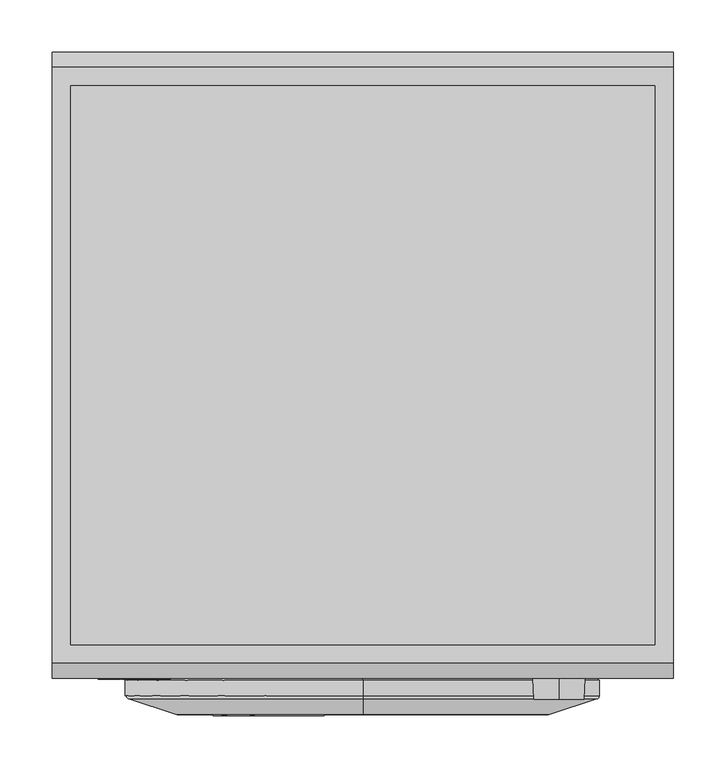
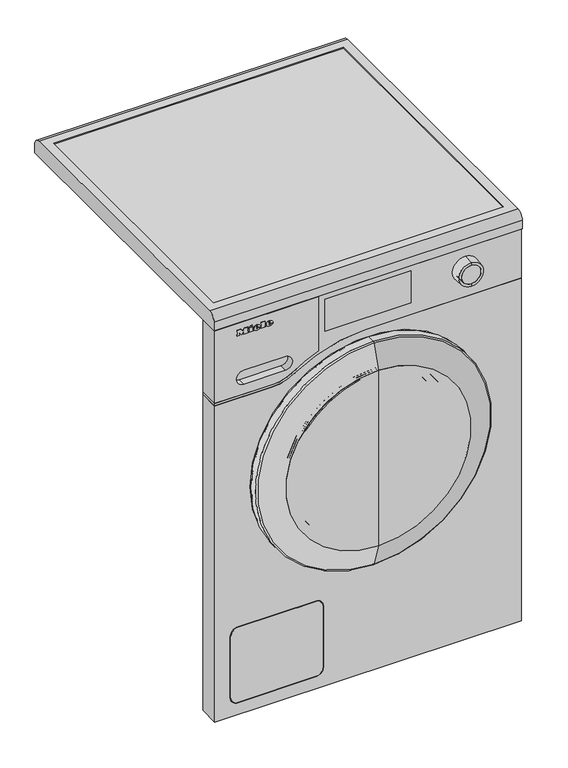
"""IFC4 building model written with IfcOpenShell, lengths in millimetres: proxy geometry, 12721040_GB_WEE385WCS_LW : 11EE3851_GB_12721040_WEE385WCS_LW."""

from ifc_helpers import new_model, si_unit, point, frame, frame_2d, origin, place, context, project, spatial, polyline, circle_curve, ellipse_curve, trimmed, segment, composite_curve, outline, extrude, source, transform, mapped, element, save
from ifc_brep_helpers import plane_surface, cylinder_surface, revolved_surface, extruded_surface, advanced_brep


def specialty_equipment_32876fde(model_context):
    return source(origin(), model_context, "Body", "SolidModel", [
        advanced_brep(
        [(-192.212, -601.0, 794.7018), (-192.212, -601.0, 795.8532), (-184.5854, -601.0, 795.8532), (-197.855, -601.0, 795.8532), (-194.72, -601.0, 792.0), (-184.7792, -601.0, 794.7018), (-188.222, -601.0, 794.7018), (-190.9352, -601.0, 793.425), (-192.212, -601.0, 797.3124), (-192.212, -601.0, 798.555), (-190.2626, -601.0, 798.555), (-190.2626, -601.0, 797.3124), (-192.212, -600.0, 794.7018), (-190.9352, -600.0, 793.425), (-188.222, -600.0, 794.7018), (-184.7792, -600.0, 794.7018), (-194.72, -600.0, 792.0), (-197.855, -600.0, 795.8532), (-184.5854, -600.0, 795.8532), (-192.212, -600.0, 795.8532), (-192.212, -600.0, 797.3124), (-190.2626, -600.0, 797.3124), (-190.2626, -600.0, 798.555), (-192.212, -600.0, 798.555)],
        [
            (0, 1),
            (1, 2),
            (2, 3, ellipse_curve(frame((-191.2202, -601.0, 795.8532), z_axis=(0.0, -1.0, 0.0), x_axis=(-1.0, 0.0, 0.0)), 6.6348, 5.4834)),
            (3, 4, circle_curve(frame((-193.4431378, -601.0, 796.2408), z_axis=(0.0, -1.0, 0.0), x_axis=(0.0, 0.0, -1.0)), 4.4288556)),
            (4, 5, circle_curve(frame((-191.3530192, -601.0, 799.2504), z_axis=(0.0, -1.0, 0.0), x_axis=(0.0, 0.0, -1.0)), 7.9940516)),
            (5, 6),
            (6, 7, circle_curve(frame((-190.3779412, -601.0, 795.762), z_axis=(0.0, 1.0, 0.0), x_axis=(0.0, 0.0, -1.0)), 2.4025208)),
            (7, 0, circle_curve(frame((-190.9352, -601.0, 794.7018), z_axis=(0.0, 1.0, 0.0), x_axis=(0.0, 0.0, -1.0)), 1.2768)),
            (8, 9),
            (9, 10, circle_curve(frame((-191.2373, -601.0, 798.555), z_axis=(0.0, 1.0, 0.0), x_axis=(0.0, 0.0, -1.0)), 0.9747)),
            (10, 11),
            (11, 8),
            (12, 13, circle_curve(frame((-190.9352, -600.0, 794.7018), z_axis=(0.0, -1.0, 0.0), x_axis=(0.0, 0.0, -1.0)), 1.2768)),
            (13, 14, circle_curve(frame((-190.3779412, -600.0, 795.762), z_axis=(0.0, -1.0, 0.0), x_axis=(0.0, 0.0, -1.0)), 2.4025208)),
            (14, 15),
            (15, 16, circle_curve(frame((-191.3530192, -600.0, 799.2504), z_axis=(0.0, 1.0, 0.0), x_axis=(0.0, 0.0, -1.0)), 7.9940516)),
            (16, 17, circle_curve(frame((-193.4431378, -600.0, 796.2408), z_axis=(0.0, 1.0, 0.0), x_axis=(0.0, 0.0, -1.0)), 4.4288556)),
            (17, 18, ellipse_curve(frame((-191.2202, -600.0, 795.8532), z_axis=(0.0, 1.0, 0.0), x_axis=(-1.0, 0.0, 0.0)), 6.6348, 5.4834)),
            (18, 19),
            (19, 12),
            (20, 21),
            (21, 22),
            (22, 23, circle_curve(frame((-191.2373, -600.0, 798.555), z_axis=(0.0, -1.0, 0.0), x_axis=(0.0, 0.0, -1.0)), 0.9747)),
            (23, 20),
            (0, 12),
            (19, 1),
            (18, 2),
            (5, 15),
            (14, 6),
            (17, 3),
            (13, 7),
            (16, 4),
            (8, 20),
            (23, 9),
            (22, 10),
            (21, 11),
        ],
        [
            plane_surface(frame((-192.212, -601.0, 795.8532), z_axis=(0.0, -1.0, 0.0), x_axis=(0.0, 0.0, 1.0))),
            plane_surface(frame((-192.212, -600.0, 795.8532), z_axis=(0.0, 1.0, 0.0), x_axis=(0.0, 0.0, -1.0))),
            plane_surface(frame((-192.212, -601.0, 794.7018), z_axis=(1.0, 0.0, 0.0), x_axis=(0.0, 1.0, 0.0))),
            plane_surface(frame((-192.212, -601.0, 795.8532), z_axis=(0.0, 0.0, -1.0), x_axis=(0.0, 1.0, 0.0))),
            plane_surface(frame((-184.7792, -601.0, 794.7018), z_axis=(0.0, 0.0, 1.0), x_axis=(0.0, 1.0, 0.0))),
            extruded_surface(trimmed(ellipse_curve(frame((-191.2202, -599.0, 795.8532), z_axis=(0.0, -1.0, 0.0), x_axis=(-1.0, 0.0, 0.0)), 6.6348, 5.4834), [point((-184.5854, -599.0, 795.8532))], [point((-197.855, -599.0, 795.8532))], True, "CARTESIAN"), (0.0, -1.0, 0.0), 1.0),
            revolved_surface(polyline([(-190.3779412, -600.0, 793.3594791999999), (-190.3779412, -601.0, 793.3594791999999)]), (-190.3779412, -600.0, 795.762), (0.0, 1.0, 0.0)),
            revolved_surface(polyline([(-190.9352, -600.0, 793.4250000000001), (-190.9352, -601.0, 793.4250000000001)]), (-190.9352, -600.0, 794.7018), (0.0, 1.0, 0.0)),
            cylinder_surface(frame((-193.4431378, -600.0, 796.2408), z_axis=(0.0, -1.0, 0.0), x_axis=(0.0, 0.0, -1.0)), 4.4288556),
            cylinder_surface(frame((-191.3530192, -600.0, 799.2504), z_axis=(0.0, -1.0, 0.0), x_axis=(0.0, 0.0, -1.0)), 7.9940516),
            plane_surface(frame((-192.212, -601.0, 797.3124), z_axis=(1.0, 0.0, 0.0), x_axis=(0.0, 1.0, 0.0))),
            revolved_surface(polyline([(-191.2373, -600.0, 797.5803), (-191.2373, -601.0, 797.5803)]), (-191.2373, -600.0, 798.555), (0.0, 1.0, 0.0)),
            plane_surface(frame((-190.2626, -601.0, 798.555), z_axis=(-1.0, 0.0, 0.0), x_axis=(0.0, 1.0, 0.0))),
            plane_surface(frame((-190.2626, -601.0, 797.3124), z_axis=(0.0, 0.0, 1.0), x_axis=(0.0, 1.0, 0.0))),
        ],
        [
            (0, [[1, 2, 3, 4, 5, 6, 7, 8], [9, 10, 11, 12]]),
            (1, [[13, 14, 15, 16, 17, 18, 19, 20], [21, 22, 23, 24]]),
            (2, [[-1, 25, -20, 26]]),
            (3, [[-2, -26, -19, 27]]),
            (4, [[-6, 28, -15, 29]]),
            (5, [[-3, -27, -18, 30]]),
            (6, [[-7, -29, -14, 31]]),
            (7, [[-8, -31, -13, -25]]),
            (8, [[-4, -30, -17, 32]]),
            (9, [[-5, -32, -16, -28]]),
            (10, [[-9, 33, -24, 34]]),
            (11, [[-10, -34, -23, 35]]),
            (12, [[-11, -35, -22, 36]]),
            (13, [[-12, -36, -21, -33]]),
        ],
    ),
        advanced_brep(
        [(-216.0038, -601.0, 794.7018), (-216.0038, -601.0, 795.8532), (-208.3772, -601.0, 795.8532), (-221.6468, -601.0, 795.8532), (-218.5118, -601.0, 792.0), (-208.571, -601.0, 794.7018), (-212.0138, -601.0, 794.7018), (-214.727, -601.0, 793.425), (-216.0038, -601.0, 797.3124), (-216.0038, -601.0, 798.555), (-214.0544, -601.0, 798.555), (-214.0544, -601.0, 797.3124), (-216.0038, -600.0, 794.7018), (-214.727, -600.0, 793.425), (-212.0138, -600.0, 794.7018), (-208.571, -600.0, 794.7018), (-218.5118, -600.0, 792.0), (-221.6468, -600.0, 795.8532), (-208.3772, -600.0, 795.8532), (-216.0038, -600.0, 795.8532), (-216.0038, -600.0, 797.3124), (-214.0544, -600.0, 797.3124), (-214.0544, -600.0, 798.555), (-216.0038, -600.0, 798.555)],
        [
            (0, 1),
            (1, 2),
            (2, 3, ellipse_curve(frame((-215.012, -601.0, 795.8532), z_axis=(0.0, -1.0, 0.0), x_axis=(-1.0, 0.0, 0.0)), 6.6348, 5.4834)),
            (3, 4, circle_curve(frame((-217.2349378, -601.0, 796.2408), z_axis=(0.0, -1.0, 0.0), x_axis=(0.0, 0.0, -1.0)), 4.4288556)),
            (4, 5, circle_curve(frame((-215.1448192, -601.0, 799.2504), z_axis=(0.0, -1.0, 0.0), x_axis=(0.0, 0.0, -1.0)), 7.9940516)),
            (5, 6),
            (6, 7, circle_curve(frame((-214.1697412, -601.0, 795.762), z_axis=(0.0, 1.0, 0.0), x_axis=(0.0, 0.0, -1.0)), 2.4025208)),
            (7, 0, circle_curve(frame((-214.727, -601.0, 794.7018), z_axis=(0.0, 1.0, 0.0), x_axis=(0.0, 0.0, -1.0)), 1.2768)),
            (8, 9),
            (9, 10, circle_curve(frame((-215.0291, -601.0, 798.555), z_axis=(0.0, 1.0, 0.0), x_axis=(0.0, 0.0, -1.0)), 0.9747)),
            (10, 11),
            (11, 8),
            (12, 13, circle_curve(frame((-214.727, -600.0, 794.7018), z_axis=(0.0, -1.0, 0.0), x_axis=(0.0, 0.0, -1.0)), 1.2768)),
            (13, 14, circle_curve(frame((-214.1697412, -600.0, 795.762), z_axis=(0.0, -1.0, 0.0), x_axis=(0.0, 0.0, -1.0)), 2.4025208)),
            (14, 15),
            (15, 16, circle_curve(frame((-215.1448192, -600.0, 799.2504), z_axis=(0.0, 1.0, 0.0), x_axis=(0.0, 0.0, -1.0)), 7.9940516)),
            (16, 17, circle_curve(frame((-217.2349378, -600.0, 796.2408), z_axis=(0.0, 1.0, 0.0), x_axis=(0.0, 0.0, -1.0)), 4.4288556)),
            (17, 18, ellipse_curve(frame((-215.012, -600.0, 795.8532), z_axis=(0.0, 1.0, 0.0), x_axis=(-1.0, 0.0, 0.0)), 6.6348, 5.4834)),
            (18, 19),
            (19, 12),
            (20, 21),
            (21, 22),
            (22, 23, circle_curve(frame((-215.0291, -600.0, 798.555), z_axis=(0.0, -1.0, 0.0), x_axis=(0.0, 0.0, -1.0)), 0.9747)),
            (23, 20),
            (0, 12),
            (19, 1),
            (18, 2),
            (5, 15),
            (14, 6),
            (17, 3),
            (13, 7),
            (16, 4),
            (8, 20),
            (23, 9),
            (22, 10),
            (21, 11),
        ],
        [
            plane_surface(frame((-216.0038, -601.0, 795.8532), z_axis=(0.0, -1.0, 0.0), x_axis=(0.0, 0.0, 1.0))),
            plane_surface(frame((-216.0038, -600.0, 795.8532), z_axis=(0.0, 1.0, 0.0), x_axis=(0.0, 0.0, -1.0))),
            plane_surface(frame((-216.0038, -601.0, 794.7018), z_axis=(1.0, 0.0, 0.0), x_axis=(0.0, 1.0, 0.0))),
            plane_surface(frame((-216.0038, -601.0, 795.8532), z_axis=(0.0, 0.0, -1.0), x_axis=(0.0, 1.0, 0.0))),
            plane_surface(frame((-208.571, -601.0, 794.7018), z_axis=(0.0, 0.0, 1.0), x_axis=(0.0, 1.0, 0.0))),
            extruded_surface(trimmed(ellipse_curve(frame((-215.012, -599.0, 795.8532), z_axis=(0.0, -1.0, 0.0), x_axis=(-1.0, 0.0, 0.0)), 6.6348, 5.4834), [point((-208.3772, -599.0, 795.8532))], [point((-221.6468, -599.0, 795.8532))], True, "CARTESIAN"), (0.0, -1.0, 0.0), 1.0),
            revolved_surface(polyline([(-214.1697412, -600.0, 793.3594791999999), (-214.1697412, -601.0, 793.3594791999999)]), (-214.1697412, -600.0, 795.762), (0.0, 1.0, 0.0)),
            revolved_surface(polyline([(-214.727, -600.0, 793.4250000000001), (-214.727, -601.0, 793.4250000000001)]), (-214.727, -600.0, 794.7018), (0.0, 1.0, 0.0)),
            cylinder_surface(frame((-217.2349378, -600.0, 796.2408), z_axis=(0.0, -1.0, 0.0), x_axis=(0.0, 0.0, -1.0)), 4.4288556),
            cylinder_surface(frame((-215.1448192, -600.0, 799.2504), z_axis=(0.0, -1.0, 0.0), x_axis=(0.0, 0.0, -1.0)), 7.9940516),
            plane_surface(frame((-216.0038, -601.0, 797.3124), z_axis=(1.0, 0.0, 0.0), x_axis=(0.0, 1.0, 0.0))),
            revolved_surface(polyline([(-215.0291, -600.0, 797.5803), (-215.0291, -601.0, 797.5803)]), (-215.0291, -600.0, 798.555), (0.0, 1.0, 0.0)),
            plane_surface(frame((-214.0544, -601.0, 798.555), z_axis=(-1.0, 0.0, 0.0), x_axis=(0.0, 1.0, 0.0))),
            plane_surface(frame((-214.0544, -601.0, 797.3124), z_axis=(0.0, 0.0, 1.0), x_axis=(0.0, 1.0, 0.0))),
        ],
        [
            (0, [[1, 2, 3, 4, 5, 6, 7, 8], [9, 10, 11, 12]]),
            (1, [[13, 14, 15, 16, 17, 18, 19, 20], [21, 22, 23, 24]]),
            (2, [[-1, 25, -20, 26]]),
            (3, [[-2, -26, -19, 27]]),
            (4, [[-6, 28, -15, 29]]),
            (5, [[-3, -27, -18, 30]]),
            (6, [[-7, -29, -14, 31]]),
            (7, [[-8, -31, -13, -25]]),
            (8, [[-4, -30, -17, 32]]),
            (9, [[-5, -32, -16, -28]]),
            (10, [[-9, 33, -24, 34]]),
            (11, [[-10, -34, -23, 35]]),
            (12, [[-11, -35, -22, 36]]),
            (13, [[-12, -36, -21, -33]]),
        ],
    ),
        extrude(outline(polyline([(802.7274, -228.464), (800.8806, -227.5976), (802.6818, -223.733), (804.5286, -224.588), (802.7274, -228.464)])), frame((0.0, -601.0, 0.0), z_axis=(0.0, 1.0, 0.0), x_axis=(0.0, 0.0, 1.0)), (0.0, 0.0, 1.0), 1.0),
        extrude(outline(polyline([(800.6298, -231.2798), (798.5892, -231.2798), (798.5892, -229.9232), (793.9152, -229.9232), (793.9152, -231.2798), (792.0, -231.2798), (792.0, -222.2852), (793.9152, -222.2852), (793.9152, -223.6076), (800.6298, -223.6076), (800.6298, -231.2798)])), frame((0.0, -601.0, 0.0), z_axis=(0.0, 1.0, 0.0), x_axis=(0.0, 0.0, 1.0)), (0.0, 0.0, 1.0), 1.0),
        extrude(outline(polyline([(801.5418, -207.7388), (801.5418, -206.3708), (793.9152, -206.3708), (793.9152, -207.7388), (792.0, -207.7388), (792.0, -198.4934), (793.9152, -198.4934), (793.9152, -199.8956), (803.4, -199.8956), (803.4, -207.7388), (801.5418, -207.7388)])), frame((0.0, -601.0, 0.0), z_axis=(0.0, 1.0, 0.0), x_axis=(0.0, 0.0, 1.0)), (0.0, 0.0, 1.0), 1.0),
        extrude(outline(polyline([(801.5418, -254.0), (801.5418, -252.6206), (793.9152, -252.6206), (793.9152, -254.0), (792.0, -254.0), (792.0, -248.984), (793.9152, -248.984), (793.9152, -250.352), (798.7429247, -250.352), (792.0, -245.2562), (798.9402223, -240.1376), (793.9152, -240.1376), (793.9152, -241.5398), (792.0, -241.5398), (792.0, -232.4426), (793.9152, -232.4426), (793.9152, -233.8904), (801.5418, -233.8904), (801.5418, -232.4426), (803.4, -232.4426), (803.4, -239.3852), (799.125, -242.714), (803.4, -246.0542), (803.4, -254.0), (801.5418, -254.0)])), frame((0.0, -601.0, 0.0), z_axis=(0.0, 1.0, 0.0), x_axis=(0.0, 0.0, 1.0)), (0.0, 0.0, 1.0), 1.0),
        extrude(outline(composite_curve([segment(trimmed(circle_curve(frame_2d((475.0, 0.0)), 179.0077488), [point((650.0572384, -37.3996979))], [point((581.8669772, -143.6078804))], False, "CARTESIAN"), True, "CONTINUOUS"), segment(polyline([(581.8669772, -143.6078804), (580.6729844, -142.0033925)]), True, "CONTINUOUS"), segment(trimmed(circle_curve(frame_2d((475.0, 0.0)), 177.0077488), [point((580.6729844, -142.0033925))], [point((648.1013763, -36.9818423))], True, "CARTESIAN"), True, "CONTINUOUS"), segment(polyline([(648.1013763, -36.9818423), (650.0572384, -37.3996979)]), True, "CONTINUOUS")], self_intersect=False)), frame((0.0, -636.0, 0.0), z_axis=(0.0, 1.0, 0.0), x_axis=(0.0, 0.0, 1.0)), (0.0, 0.0, 1.0), 1.0),
        advanced_brep(
        [(0.0, -610.8709778, 313.0), (0.0, -610.8709778, 637.0), (0.0, -592.0, 637.0), (0.0, -592.0, 313.0), (0.0, -628.93239, 652.7005461), (0.0, -628.93239, 297.2994539), (0.0, -630.9005671, 650.4364173), (0.0, -630.9005671, 299.5635827), (0.0, -592.0, 326.0), (0.0, -592.0, 624.0), (0.0, -589.0, 326.0), (0.0, -589.0, 624.0), (0.0, -589.0, 475.0), (0.0, -635.0, 296.0), (0.0, -635.0, 654.0), (0.0, -635.0, 475.0)],
        [
            (0, 1, circle_curve(frame((0.0, -610.8709778, 475.0), z_axis=(0.0, 1.0, 0.0), x_axis=(0.0, 0.0, 1.0)), 162.0)),
            (1, 2),
            (2, 3, circle_curve(frame((0.0, -592.0, 475.0), z_axis=(0.0, -1.0, 0.0), x_axis=(0.0, 0.0, 1.0)), 162.0)),
            (3, 0),
            (4, 5, circle_curve(frame((0.0, -628.93239, 475.0), z_axis=(0.0, 1.0, 0.0), x_axis=(0.0, 0.0, 1.0)), 177.7005461)),
            (5, 0),
            (0, 1, circle_curve(frame((0.0, -610.8709778, 475.0), z_axis=(0.0, -1.0, 0.0), x_axis=(0.0, 0.0, 1.0)), 162.0)),
            (1, 4),
            (6, 7, circle_curve(frame((0.0, -630.9005671, 475.0), z_axis=(0.0, 1.0, 0.0), x_axis=(0.0, 0.0, 1.0)), 175.4364173)),
            (7, 5),
            (4, 6),
            (2, 3, circle_curve(frame((0.0, -592.0, 475.0), z_axis=(0.0, 1.0, 0.0), x_axis=(0.0, 0.0, 1.0)), 162.0)),
            (3, 8),
            (8, 9, circle_curve(frame((0.0, -592.0, 475.0), z_axis=(0.0, -1.0, 0.0), x_axis=(0.0, 0.0, 1.0)), 149.0)),
            (9, 2),
            (10, 11, circle_curve(frame((0.0, -589.0, 475.0), z_axis=(0.0, 1.0, 0.0), x_axis=(0.0, 0.0, 1.0)), 149.0)),
            (11, 12),
            (12, 10),
            (8, 9, circle_curve(frame((0.0, -592.0, 475.0), z_axis=(0.0, 1.0, 0.0), x_axis=(0.0, 0.0, 1.0)), 149.0)),
            (9, 11),
            (10, 8),
            (13, 14, circle_curve(frame((0.0, -635.0, 475.0), z_axis=(0.0, 1.0, 0.0), x_axis=(0.0, 0.0, 1.0)), 179.0)),
            (14, 6),
            (6, 7, circle_curve(frame((0.0, -630.9005671, 475.0), z_axis=(0.0, -1.0, 0.0), x_axis=(0.0, 0.0, 1.0)), 175.4364173)),
            (7, 13),
            (14, 13, circle_curve(frame((0.0, -635.0, 475.0), z_axis=(0.0, 1.0, 0.0), x_axis=(0.0, 0.0, 1.0)), 179.0)),
            (15, 14),
            (13, 15),
            (11, 10, circle_curve(frame((0.0, -589.0, 475.0), z_axis=(0.0, 1.0, 0.0), x_axis=(0.0, 0.0, 1.0)), 149.0)),
            (5, 4, circle_curve(frame((0.0, -628.93239, 475.0), z_axis=(0.0, 1.0, 0.0), x_axis=(0.0, 0.0, 1.0)), 177.7005461)),
        ],
        [
            cylinder_surface(frame((0.0, -2342.7556811, 475.0), z_axis=(0.0, -1.0, 0.0), x_axis=(0.0, 0.0, 1.0)), 162.0),
            revolved_surface(polyline([(0.0, -610.8709778, 637.0), (0.0, -628.93239, 652.7005461)]), (0.0, -2342.7556811, 475.0), (0.0, -1.0, 0.0)),
            revolved_surface(polyline([(0.0, -628.93239, 652.7005461), (0.0, -630.9005671, 650.4364173)]), (0.0, -2342.7556811, 475.0), (0.0, -1.0, 0.0)),
            plane_surface(frame((0.0, -592.0, 475.0), z_axis=(0.0, 1.0, 0.0), x_axis=(0.0, 0.0, 1.0))),
            plane_surface(frame((0.0, -589.0, 475.0), z_axis=(0.0, 1.0, 0.0), x_axis=(0.0, 0.0, 1.0))),
            cylinder_surface(frame((0.0, -2342.7556811, 475.0), z_axis=(0.0, -1.0, 0.0), x_axis=(0.0, 0.0, 1.0)), 149.0),
            revolved_surface(polyline([(0.0, -630.9005671, 650.4364173), (0.0, -635.0, 654.0)]), (0.0, -2342.7556811, 475.0), (0.0, -1.0, 0.0)),
            plane_surface(frame((0.0, -635.0, 475.0), z_axis=(0.0, -1.0, 0.0), x_axis=(0.0, 0.0, 1.0))),
        ],
        [
            (0, [[1, 2, 3, 4]]),
            (1, [[5, 6, 7, 8]]),
            (2, [[9, 10, -5, 11]]),
            (3, [[12, 13, 14, 15]]),
            (4, [[16, 17, 18]]),
            (5, [[19, 20, -16, 21]]),
            (6, [[22, 23, 24, 25]]),
            (6, [[26, -25, -9, -23]]),
            (7, [[27, -22, 28]]),
            (7, [[-28, -26, -27]]),
            (4, [[29, -18, -17]]),
            (5, [[-14, -21, -29, -20]]),
            (3, [[-3, -15, -19, -13]]),
            (0, [[-7, -4, -12, -2]]),
            (1, [[30, -8, -1, -6]]),
            (2, [[-24, -11, -30, -10]]),
        ],
    ),
        advanced_brep(
        [(0.0, -602.0, 313.0), (0.0, -602.0, 637.0), (0.0, -602.0, 702.0), (0.0, -602.0, 248.0), (0.0, -592.0, 326.0), (0.0, -592.0, 624.0), (0.0, -592.0, 637.0), (0.0, -592.0, 313.0), (0.0, -589.0, 326.0), (0.0, -589.0, 624.0), (0.0, -589.0, 254.0), (0.0, -589.0, 696.0)],
        [
            (0, 1, circle_curve(frame((0.0, -602.0, 475.0), z_axis=(0.0, 1.0, 0.0), x_axis=(0.0, 0.0, 1.0)), 162.0)),
            (1, 2),
            (2, 3, circle_curve(frame((0.0, -602.0, 475.0), z_axis=(0.0, -1.0, 0.0), x_axis=(0.0, 0.0, 1.0)), 227.0)),
            (3, 0),
            (4, 5, circle_curve(frame((0.0, -592.0, 475.0), z_axis=(0.0, 1.0, 0.0), x_axis=(0.0, 0.0, 1.0)), 149.0)),
            (5, 6),
            (6, 7, circle_curve(frame((0.0, -592.0, 475.0), z_axis=(0.0, -1.0, 0.0), x_axis=(0.0, 0.0, 1.0)), 162.0)),
            (7, 4),
            (5, 4, circle_curve(frame((0.0, -592.0, 475.0), z_axis=(0.0, 1.0, 0.0), x_axis=(0.0, 0.0, 1.0)), 149.0)),
            (7, 6, circle_curve(frame((0.0, -592.0, 475.0), z_axis=(0.0, -1.0, 0.0), x_axis=(0.0, 0.0, 1.0)), 162.0)),
            (8, 9, circle_curve(frame((0.0, -589.0, 475.0), z_axis=(0.0, 1.0, 0.0), x_axis=(0.0, 0.0, 1.0)), 149.0)),
            (9, 5),
            (4, 8),
            (2, 3, circle_curve(frame((0.0, -602.0, 475.0), z_axis=(0.0, 1.0, 0.0), x_axis=(0.0, 0.0, 1.0)), 227.0)),
            (3, 10),
            (10, 11, circle_curve(frame((0.0, -589.0, 475.0), z_axis=(0.0, -1.0, 0.0), x_axis=(0.0, 0.0, 1.0)), 221.0)),
            (11, 2),
            (10, 11, circle_curve(frame((0.0, -589.0, 475.0), z_axis=(0.0, 1.0, 0.0), x_axis=(0.0, 0.0, 1.0)), 221.0)),
            (11, 9),
            (8, 10),
            (8, 9, circle_curve(frame((0.0, -589.0, 475.0), z_axis=(0.0, -1.0, 0.0), x_axis=(0.0, 0.0, 1.0)), 149.0)),
            (1, 0, circle_curve(frame((0.0, -602.0, 475.0), z_axis=(0.0, 1.0, 0.0), x_axis=(0.0, 0.0, 1.0)), 162.0)),
            (6, 1),
            (0, 7),
        ],
        [
            plane_surface(frame((0.0, -602.0, 475.0), z_axis=(0.0, -1.0, 0.0), x_axis=(0.0, 0.0, 1.0))),
            plane_surface(frame((0.0, -592.0, 475.0), z_axis=(0.0, -1.0, 0.0), x_axis=(0.0, 0.0, 1.0))),
            revolved_surface(polyline([(0.0, -592.0, 624.0), (0.0, -589.0, 624.0)]), (0.0, -2342.7556811, 475.0), (0.0, -1.0, 0.0)),
            revolved_surface(polyline([(0.0, -589.0, 696.0), (0.0, -602.0, 702.0)]), (0.0, -2342.7556811, 475.0), (0.0, -1.0, 0.0)),
            plane_surface(frame((0.0, -589.0, 475.0), z_axis=(0.0, 1.0, 0.0), x_axis=(0.0, 0.0, 1.0))),
            revolved_surface(polyline([(0.0, -602.0, 637.0), (0.0, -592.0, 637.0)]), (0.0, -2342.7556811, 475.0), (0.0, -1.0, 0.0)),
        ],
        [
            (0, [[1, 2, 3, 4]]),
            (1, [[5, 6, 7, 8]]),
            (1, [[9, -8, 10, -6]]),
            (2, [[11, 12, -5, 13]]),
            (3, [[14, 15, 16, 17]]),
            (4, [[18, 19, -11, 20]]),
            (4, [[-16, -20, 21, -19]]),
            (3, [[-3, -17, -18, -15]]),
            (0, [[22, -4, -14, -2]]),
            (5, [[-7, 23, -1, 24]]),
            (5, [[-10, -24, -22, -23]]),
            (2, [[-21, -13, -9, -12]]),
        ],
    ),
        advanced_brep(
        [(0.0, -602.0, 313.0), (0.0, -602.0, 637.0), (0.0, -610.8709778, 637.0), (0.0, -610.8709778, 313.0), (0.0, -602.0, 310.0), (0.0, -602.0, 640.0), (0.0, -609.7493238, 310.0), (0.0, -609.7493238, 640.0), (0.0, -628.93239, 297.2994539), (0.0, -628.93239, 652.7005461), (0.0, -626.9642129, 654.9646748), (0.0, -626.9642129, 295.0353252)],
        [
            (0, 1, circle_curve(frame((0.0, -602.0, 475.0), z_axis=(0.0, 1.0, 0.0), x_axis=(0.0, 0.0, 1.0)), 162.0)),
            (1, 2),
            (2, 3, circle_curve(frame((0.0, -610.8709778, 475.0), z_axis=(0.0, -1.0, 0.0), x_axis=(0.0, 0.0, 1.0)), 162.0)),
            (3, 0),
            (4, 5, circle_curve(frame((0.0, -602.0, 475.0), z_axis=(0.0, 1.0, 0.0), x_axis=(0.0, 0.0, 1.0)), 165.0)),
            (5, 1),
            (0, 4),
            (6, 7, circle_curve(frame((0.0, -609.7493238, 475.0), z_axis=(0.0, 1.0, 0.0), x_axis=(0.0, 0.0, 1.0)), 165.0)),
            (7, 5),
            (4, 6),
            (2, 3, circle_curve(frame((0.0, -610.8709778, 475.0), z_axis=(0.0, 1.0, 0.0), x_axis=(0.0, 0.0, 1.0)), 162.0)),
            (3, 8),
            (8, 9, circle_curve(frame((0.0, -628.93239, 475.0), z_axis=(0.0, -1.0, 0.0), x_axis=(0.0, 0.0, 1.0)), 177.7005461)),
            (9, 2),
            (8, 9, circle_curve(frame((0.0, -628.93239, 475.0), z_axis=(0.0, 1.0, 0.0), x_axis=(0.0, 0.0, 1.0)), 177.7005461)),
            (9, 10),
            (10, 11, circle_curve(frame((0.0, -626.9642129, 475.0), z_axis=(0.0, -1.0, 0.0), x_axis=(0.0, 0.0, 1.0)), 179.9646748)),
            (11, 8),
            (11, 10, circle_curve(frame((0.0, -626.9642129, 475.0), z_axis=(0.0, -1.0, 0.0), x_axis=(0.0, 0.0, 1.0)), 179.9646748)),
            (1, 0, circle_curve(frame((0.0, -602.0, 475.0), z_axis=(0.0, 1.0, 0.0), x_axis=(0.0, 0.0, 1.0)), 162.0)),
            (10, 7),
            (6, 11),
            (6, 7, circle_curve(frame((0.0, -609.7493238, 475.0), z_axis=(0.0, -1.0, 0.0), x_axis=(0.0, 0.0, 1.0)), 165.0)),
            (5, 4, circle_curve(frame((0.0, -602.0, 475.0), z_axis=(0.0, 1.0, 0.0), x_axis=(0.0, 0.0, 1.0)), 165.0)),
        ],
        [
            revolved_surface(polyline([(0.0, -610.8709778, 637.0), (0.0, -602.0, 637.0)]), (0.0, -2342.7556811, 475.0), (0.0, -1.0, 0.0)),
            plane_surface(frame((0.0, -602.0, 475.0), z_axis=(0.0, 1.0, 0.0), x_axis=(0.0, 0.0, 1.0))),
            cylinder_surface(frame((0.0, -2342.7556811, 475.0), z_axis=(0.0, -1.0, 0.0), x_axis=(0.0, 0.0, 1.0)), 165.0),
            revolved_surface(polyline([(0.0, -628.93239, 652.7005461), (0.0, -610.8709778, 637.0)]), (0.0, -2342.7556811, 475.0), (0.0, -1.0, 0.0)),
            revolved_surface(polyline([(0.0, -626.9642129, 654.9646748), (0.0, -628.93239, 652.7005461)]), (0.0, -2342.7556811, 475.0), (0.0, -1.0, 0.0)),
            revolved_surface(polyline([(0.0, -609.7493238, 640.0), (0.0, -626.9642129, 654.9646748)]), (0.0, -2342.7556811, 475.0), (0.0, -1.0, 0.0)),
        ],
        [
            (0, [[1, 2, 3, 4]]),
            (1, [[5, 6, -1, 7]]),
            (2, [[8, 9, -5, 10]]),
            (3, [[11, 12, 13, 14]]),
            (4, [[15, 16, 17, 18]]),
            (4, [[-13, -18, 19, -16]]),
            (3, [[-3, -14, -15, -12]]),
            (0, [[20, -4, -11, -2]]),
            (5, [[-17, 21, -8, 22]]),
            (5, [[-19, -22, 23, -21]]),
            (1, [[24, -7, -20, -6]]),
            (2, [[-23, -10, -24, -9]]),
        ],
    ),
        advanced_brep(
        [(0.0, -626.9642129, 295.0353252), (0.0, -626.9642129, 654.9646748), (0.0, -630.9005671, 650.4364173), (0.0, -630.9005671, 299.5635827), (0.0, -602.0, 247.0), (0.0, -602.0, 703.0), (0.0, -602.0, 640.0), (0.0, -602.0, 310.0), (0.0, -609.7493238, 640.0), (0.0, -609.7493238, 310.0), (0.0, -635.0, 296.0), (0.0, -635.0, 654.0), (0.0, -616.8993073, 247.0), (0.0, -616.8993073, 703.0), (0.0, -619.7524768, 249.072949), (0.0, -619.7524768, 700.927051)],
        [
            (0, 1, circle_curve(frame((0.0, -626.9642129, 475.0), z_axis=(0.0, 1.0, 0.0), x_axis=(0.0, 0.0, 1.0)), 179.9646748)),
            (1, 2),
            (2, 3, circle_curve(frame((0.0, -630.9005671, 475.0), z_axis=(0.0, -1.0, 0.0), x_axis=(0.0, 0.0, 1.0)), 175.4364173)),
            (3, 0),
            (4, 5, circle_curve(frame((0.0, -602.0, 475.0), z_axis=(0.0, 1.0, 0.0), x_axis=(0.0, 0.0, 1.0)), 228.0)),
            (5, 6),
            (6, 7, circle_curve(frame((0.0, -602.0, 475.0), z_axis=(0.0, -1.0, 0.0), x_axis=(0.0, 0.0, 1.0)), 165.0)),
            (7, 4),
            (6, 8),
            (8, 9, circle_curve(frame((0.0, -609.7493238, 475.0), z_axis=(0.0, -1.0, 0.0), x_axis=(0.0, 0.0, 1.0)), 165.0)),
            (9, 7),
            (2, 3, circle_curve(frame((0.0, -630.9005671, 475.0), z_axis=(0.0, 1.0, 0.0), x_axis=(0.0, 0.0, 1.0)), 175.4364173)),
            (3, 10),
            (10, 11, circle_curve(frame((0.0, -635.0, 475.0), z_axis=(0.0, -1.0, 0.0), x_axis=(0.0, 0.0, 1.0)), 179.0)),
            (11, 2),
            (12, 13, circle_curve(frame((0.0, -616.8993073, 475.0), z_axis=(0.0, 1.0, 0.0), x_axis=(0.0, 0.0, 1.0)), 228.0)),
            (13, 5),
            (4, 12),
            (13, 12, circle_curve(frame((0.0, -616.8993073, 475.0), z_axis=(0.0, 1.0, 0.0), x_axis=(0.0, 0.0, 1.0)), 228.0)),
            (4, 5, circle_curve(frame((0.0, -602.0, 475.0), z_axis=(0.0, -1.0, 0.0), x_axis=(0.0, 0.0, 1.0)), 228.0)),
            (14, 15, circle_curve(frame((0.0, -619.7524768, 475.0), z_axis=(0.0, 1.0, 0.0), x_axis=(0.0, 0.0, 1.0)), 225.927051)),
            (15, 13, circle_curve(frame((0.0, -616.8993073, 700.0), z_axis=(-1.0, 0.0, 0.0), x_axis=(0.0, 1.0, 0.0)), 3.0)),
            (12, 14, circle_curve(frame((0.0, -616.8993073, 250.0), z_axis=(-1.0, 0.0, 0.0), x_axis=(0.0, 1.0, 0.0)), 3.0)),
            (15, 14, circle_curve(frame((0.0, -619.7524768, 475.0), z_axis=(0.0, 1.0, 0.0), x_axis=(0.0, 0.0, 1.0)), 225.927051)),
            (10, 11, circle_curve(frame((0.0, -635.0, 475.0), z_axis=(0.0, 1.0, 0.0), x_axis=(0.0, 0.0, 1.0)), 179.0)),
            (11, 15),
            (14, 10),
            (1, 0, circle_curve(frame((0.0, -626.9642129, 475.0), z_axis=(0.0, 1.0, 0.0), x_axis=(0.0, 0.0, 1.0)), 179.9646748)),
            (8, 1),
            (0, 9),
            (8, 9, circle_curve(frame((0.0, -609.7493238, 475.0), z_axis=(0.0, 1.0, 0.0), x_axis=(0.0, 0.0, 1.0)), 165.0)),
            (7, 6, circle_curve(frame((0.0, -602.0, 475.0), z_axis=(0.0, -1.0, 0.0), x_axis=(0.0, 0.0, 1.0)), 165.0)),
        ],
        [
            revolved_surface(polyline([(0.0, -630.9005671, 650.4364173), (0.0, -626.9642129, 654.9646748)]), (0.0, -2342.7556811, 475.0), (0.0, -1.0, 0.0)),
            plane_surface(frame((0.0, -602.0, 475.0), z_axis=(0.0, 1.0, 0.0), x_axis=(0.0, 0.0, 1.0))),
            revolved_surface(polyline([(0.0, -609.7493238, 640.0), (0.0, -602.0, 640.0)]), (0.0, -2342.7556811, 475.0), (0.0, -1.0, 0.0)),
            revolved_surface(polyline([(0.0, -635.0, 654.0), (0.0, -630.9005671, 650.4364173)]), (0.0, -2342.7556811, 475.0), (0.0, -1.0, 0.0)),
            cylinder_surface(frame((0.0, -2342.7556811, 475.0), z_axis=(0.0, -1.0, 0.0), x_axis=(0.0, 0.0, 1.0)), 228.0),
            revolved_surface(trimmed(ellipse_curve(frame((0.0, -616.8993073, 700.0), z_axis=(1.0, 0.0, 0.0), x_axis=(0.0, 1.0, 0.0)), 3.0, 3.0), [point((0.0, -616.8993073, 703.0))], [point((0.0, -619.7524768, 700.927051))], True, "CARTESIAN"), (0.0, -2342.7556811, 475.0), (0.0, -1.0, 0.0)),
            revolved_surface(polyline([(0.0, -619.7524768, 700.927051), (0.0, -635.0, 654.0)]), (0.0, -2342.7556811, 475.0), (0.0, -1.0, 0.0)),
            revolved_surface(polyline([(0.0, -626.9642129, 654.9646748), (0.0, -609.7493238, 640.0)]), (0.0, -2342.7556811, 475.0), (0.0, -1.0, 0.0)),
        ],
        [
            (0, [[1, 2, 3, 4]]),
            (1, [[5, 6, 7, 8]]),
            (2, [[-7, 9, 10, 11]]),
            (3, [[12, 13, 14, 15]]),
            (4, [[16, 17, -5, 18]]),
            (4, [[19, -18, 20, -17]]),
            (5, [[21, 22, -16, 23]]),
            (5, [[24, -23, -19, -22]]),
            (6, [[25, 26, -21, 27]]),
            (6, [[-14, -27, -24, -26]]),
            (3, [[-3, -15, -25, -13]]),
            (0, [[28, -4, -12, -2]]),
            (7, [[-10, 29, -1, 30]]),
            (7, [[31, -30, -28, -29]]),
            (1, [[-20, -8, 32, -6]]),
            (2, [[-32, -11, -31, -9]]),
        ],
    ),
        advanced_brep(
        [(188.0, -600.0, 756.0), (188.0, -600.0, 794.0), (188.0, -620.0, 794.0), (188.0, -620.0, 756.0), (188.0, -600.0, 750.0), (188.0, -600.0, 800.0), (188.0, -620.0, 751.0481556), (188.0, -620.0, 798.9518444)],
        [
            (0, 1, circle_curve(frame((188.0, -600.0, 775.0), z_axis=(0.0, 1.0, 0.0), x_axis=(0.0, 0.0, 1.0)), 19.0)),
            (1, 2),
            (2, 3, circle_curve(frame((188.0, -620.0, 775.0), z_axis=(0.0, -1.0, 0.0), x_axis=(0.0, 0.0, 1.0)), 19.0)),
            (3, 0),
            (1, 0, circle_curve(frame((188.0, -600.0, 775.0), z_axis=(0.0, 1.0, 0.0), x_axis=(0.0, 0.0, 1.0)), 19.0)),
            (3, 2, circle_curve(frame((188.0, -620.0, 775.0), z_axis=(0.0, -1.0, 0.0), x_axis=(0.0, 0.0, 1.0)), 19.0)),
            (4, 5, circle_curve(frame((188.0, -600.0, 775.0), z_axis=(0.0, 1.0, 0.0), x_axis=(0.0, 0.0, 1.0)), 25.0)),
            (5, 1),
            (0, 4),
            (5, 4, circle_curve(frame((188.0, -600.0, 775.0), z_axis=(0.0, 1.0, 0.0), x_axis=(0.0, 0.0, 1.0)), 25.0)),
            (6, 7, circle_curve(frame((188.0, -620.0, 775.0), z_axis=(0.0, 1.0, 0.0), x_axis=(0.0, 0.0, 1.0)), 23.9518444)),
            (7, 5),
            (4, 6),
            (7, 6, circle_curve(frame((188.0, -620.0, 775.0), z_axis=(0.0, 1.0, 0.0), x_axis=(0.0, 0.0, 1.0)), 23.9518444)),
            (2, 7),
            (6, 3),
        ],
        [
            revolved_surface(polyline([(188.0, -620.0, 794.0), (188.0, -600.0, 794.0)]), (188.0, -2342.7556811, 775.0), (0.0, -1.0, 0.0)),
            plane_surface(frame((188.0, -600.0, 775.0), z_axis=(0.0, 1.0, 0.0), x_axis=(0.0, 0.0, 1.0))),
            revolved_surface(polyline([(188.0, -600.0, 800.0), (188.0, -620.0, 798.9518444)]), (188.0, -2342.7556811, 775.0), (0.0, -1.0, 0.0)),
            plane_surface(frame((188.0, -620.0, 775.0), z_axis=(0.0, -1.0, 0.0), x_axis=(0.0, 0.0, 1.0))),
        ],
        [
            (0, [[1, 2, 3, 4]]),
            (0, [[5, -4, 6, -2]]),
            (1, [[7, 8, -1, 9]]),
            (1, [[10, -9, -5, -8]]),
            (2, [[11, 12, -7, 13]]),
            (2, [[14, -13, -10, -12]]),
            (3, [[-3, 15, -11, 16]]),
            (3, [[-6, -16, -14, -15]]),
        ],
    ),
        extrude(outline(composite_curve([segment(trimmed(circle_curve(frame_2d((775.0, 188.0)), 19.0), [point((775.0, 207.0))], [point((775.0, 169.0))], False, "CARTESIAN"), True, "CONTINUOUS"), segment(trimmed(circle_curve(frame_2d((775.0, 188.0)), 19.0), [point((775.0, 169.0))], [point((775.0, 207.0))], False, "CARTESIAN"), True, "CONTINUOUS")], self_intersect=False)), frame((0.0, -620.0, 0.0), z_axis=(0.0, 1.0, 0.0), x_axis=(0.0, 0.0, 1.0)), (0.0, 0.0, 1.0), 20.0),
        advanced_brep(
        [(298.0, -585.5, 850.0), (298.0, -600.0, 835.5), (298.0, -600.0, 818.0), (298.0, 0.0, 818.0), (298.0, 0.0, 835.5), (298.0, -14.5, 850.0), (-298.0, -585.5, 850.0), (-298.0, -14.5, 850.0), (-298.0, 0.0, 835.5), (-298.0, 0.0, 818.0), (-298.0, -600.0, 818.0), (-298.0, -600.0, 835.5), (-280.0, -32.0, 850.0), (280.0, -32.0, 850.0), (280.0, -568.0, 850.0), (-280.0, -568.0, 850.0), (280.0, -32.0, 848.0), (-280.0, -32.0, 848.0), (-280.0, -568.0, 848.0), (280.0, -568.0, 848.0)],
        [
            (0, 1, circle_curve(frame((298.0, -585.5, 835.5), z_axis=(1.0, 0.0, 0.0), x_axis=(0.0, 0.0, -1.0)), 14.5)),
            (1, 2),
            (2, 3),
            (3, 4),
            (4, 5, circle_curve(frame((298.0, -14.5, 835.5), z_axis=(1.0, 0.0, 0.0), x_axis=(0.0, 0.0, -1.0)), 14.5)),
            (5, 0),
            (6, 7),
            (7, 8, circle_curve(frame((-298.0, -14.5, 835.5), z_axis=(-1.0, 0.0, 0.0), x_axis=(0.0, 0.0, -1.0)), 14.5)),
            (8, 9),
            (9, 10),
            (10, 11),
            (11, 6, circle_curve(frame((-298.0, -585.5, 835.5), z_axis=(-1.0, 0.0, 0.0), x_axis=(0.0, 0.0, -1.0)), 14.5)),
            (5, 7),
            (6, 0),
            (12, 13),
            (13, 14),
            (14, 15),
            (15, 12),
            (4, 8),
            (3, 9),
            (2, 10),
            (1, 11),
            (16, 17),
            (17, 18),
            (18, 19),
            (19, 16),
            (16, 13),
            (12, 17),
            (15, 18),
            (14, 19),
        ],
        [
            plane_surface(frame((298.0, -585.5, 850.0), z_axis=(1.0, 0.0, 0.0), x_axis=(0.0, -1.0, 0.0))),
            plane_surface(frame((-298.0, -585.5, 850.0), z_axis=(-1.0, 0.0, 0.0), x_axis=(0.0, 1.0, 0.0))),
            plane_surface(frame((-298.0, -585.5, 850.0), z_axis=(0.0, 0.0, 1.0), x_axis=(1.0, 0.0, 0.0))),
            cylinder_surface(frame((298.0, -14.5, 835.5), z_axis=(-1.0, 0.0, 0.0), x_axis=(0.0, 0.0, -1.0)), 14.5),
            plane_surface(frame((-298.0, 0.0, 835.5), z_axis=(0.0, 1.0, 0.0), x_axis=(1.0, 0.0, 0.0))),
            plane_surface(frame((-298.0, 0.0, 818.0), z_axis=(0.0, 0.0, -1.0), x_axis=(1.0, 0.0, 0.0))),
            plane_surface(frame((-298.0, -600.0, 818.0), z_axis=(0.0, -1.0, 0.0), x_axis=(1.0, 0.0, 0.0))),
            cylinder_surface(frame((298.0, -585.5, 835.5), z_axis=(-1.0, 0.0, 0.0), x_axis=(0.0, 0.0, -1.0)), 14.5),
            plane_surface(frame((-179.0425004, -32.0, 848.0), z_axis=(0.0, 0.0, 1.0), x_axis=(1.0, 0.0, 0.0))),
            plane_surface(frame((280.0, -32.0, 850.0), z_axis=(0.0, -1.0, 0.0), x_axis=(0.0, 0.0, -1.0))),
            plane_surface(frame((-280.0, -32.0, 850.0), z_axis=(1.0, 0.0, 0.0), x_axis=(0.0, 0.0, -1.0))),
            plane_surface(frame((-280.0, -568.0, 850.0), z_axis=(0.0, 1.0, 0.0), x_axis=(0.0, 0.0, -1.0))),
            plane_surface(frame((280.0, -568.0, 850.0), z_axis=(-1.0, 0.0, 0.0), x_axis=(0.0, 0.0, -1.0))),
        ],
        [
            (0, [[1, 2, 3, 4, 5, 6]]),
            (1, [[7, 8, 9, 10, 11, 12]]),
            (2, [[-6, 13, -7, 14], [15, 16, 17, 18]]),
            (3, [[-5, 19, -8, -13]]),
            (4, [[-4, 20, -9, -19]]),
            (5, [[-3, 21, -10, -20]]),
            (6, [[-2, 22, -11, -21]]),
            (7, [[-1, -14, -12, -22]]),
            (8, [[23, 24, 25, 26]]),
            (9, [[-23, 27, -15, 28]]),
            (10, [[-24, -28, -18, 29]]),
            (11, [[-25, -29, -17, 30]]),
            (12, [[-26, -30, -16, -27]]),
        ],
    ),
        extrude(outline(polyline([(-83.0, -570.0), (83.0, -570.0), (83.0, -600.0), (-83.0, -600.0), (-83.0, -570.0)])), frame((0.0, 0.0, 742.0), z_axis=(0.0, 0.0, 1.0), x_axis=(1.0, 0.0, 0.0)), (0.0, 0.0, 1.0), 65.0),
        advanced_brep(
        [(-296.5, -600.0, 664.0), (-185.7266361, -600.0, 664.0), (-145.1722991, -600.0, 675.3673121), (-5.7577941, -600.0, 718.0), (296.5, -600.0, 718.0), (296.5, -600.0, 817.0), (-94.5, -600.0, 817.0), (-94.5, -600.0, 705.9439484), (-147.3302559, -600.0, 678.7366161), (-185.7266361, -600.0, 668.0), (-296.5, -600.0, 668.0), (83.0, -600.0, 807.0), (83.0, -600.0, 742.0), (-83.0, -600.0, 742.0), (-83.0, -600.0, 807.0), (296.5, -560.0, 817.0), (296.5, -560.0, 718.0), (-5.7577941, -560.0, 718.0), (-145.1722991, -560.0, 675.3673121), (-185.7266361, -560.0, 664.0), (-296.5, -560.0, 664.0), (-296.5, -560.0, 668.0), (-185.7266361, -560.0, 668.0), (-147.3302559, -560.0, 678.7366161), (-94.5, -560.0, 705.9439484), (-94.5, -560.0, 817.0), (83.0, -570.0, 807.0), (-83.0, -570.0, 807.0), (-83.0, -570.0, 742.0), (83.0, -570.0, 742.0)],
        [
            (0, 1),
            (1, 2, circle_curve(frame((-185.7266361, -600.0, 742.0250428), z_axis=(0.0, -1.0, 0.0), x_axis=(-1.0, 0.0, 0.0)), 78.0250428)),
            (2, 3, circle_curve(frame((-5.7577941, -600.0, 468.7317583), z_axis=(0.0, 1.0, 0.0), x_axis=(-1.0, 0.0, 0.0)), 249.2682417)),
            (3, 4),
            (4, 5),
            (5, 6),
            (6, 7),
            (7, 8, circle_curve(frame((-5.7577941, -600.0, 468.7317583), z_axis=(0.0, -1.0, 0.0), x_axis=(-1.0, 0.0, 0.0)), 253.2682417)),
            (8, 9, circle_curve(frame((-185.7266361, -600.0, 742.0250428), z_axis=(0.0, 1.0, 0.0), x_axis=(-1.0, 0.0, 0.0)), 74.0250428)),
            (9, 10),
            (10, 0),
            (11, 12),
            (12, 13),
            (13, 14),
            (14, 11),
            (15, 16),
            (16, 17),
            (17, 18, circle_curve(frame((-5.7577941, -560.0, 468.7317583), z_axis=(0.0, -1.0, 0.0), x_axis=(-1.0, 0.0, 0.0)), 249.2682417)),
            (18, 19, circle_curve(frame((-185.7266361, -560.0, 742.0250428), z_axis=(0.0, 1.0, 0.0), x_axis=(-1.0, 0.0, 0.0)), 78.0250428)),
            (19, 20),
            (20, 21),
            (21, 22),
            (22, 23, circle_curve(frame((-185.7266361, -560.0, 742.0250428), z_axis=(0.0, -1.0, 0.0), x_axis=(-1.0, 0.0, 0.0)), 74.0250428)),
            (23, 24, circle_curve(frame((-5.7577941, -560.0, 468.7317583), z_axis=(0.0, 1.0, 0.0), x_axis=(-1.0, 0.0, 0.0)), 253.2682417)),
            (24, 25),
            (25, 15),
            (4, 16),
            (15, 5),
            (25, 6),
            (20, 0),
            (10, 21),
            (3, 17),
            (2, 18),
            (1, 19),
            (24, 7),
            (26, 27),
            (27, 28),
            (28, 29),
            (29, 26),
            (29, 12),
            (11, 26),
            (28, 13),
            (27, 14),
            (23, 8),
            (22, 9),
        ],
        [
            plane_surface(frame((-296.5, -600.0, 817.0), z_axis=(0.0, -1.0, 0.0), x_axis=(0.0, 0.0, -1.0))),
            plane_surface(frame((-296.5, -560.0, 817.0), z_axis=(0.0, 1.0, 0.0), x_axis=(0.0, 0.0, 1.0))),
            plane_surface(frame((296.5, -560.0, 817.0), z_axis=(1.0, 0.0, 0.0), x_axis=(0.0, -1.0, 0.0))),
            plane_surface(frame((-296.5, -560.0, 817.0), z_axis=(0.0, 0.0, 1.0), x_axis=(0.0, -1.0, 0.0))),
            plane_surface(frame((-296.5, -560.0, 664.0), z_axis=(-1.0, 0.0, 0.0), x_axis=(0.0, -1.0, 0.0))),
            plane_surface(frame((296.5, -560.0, 718.0), z_axis=(0.0, 0.0, -1.0), x_axis=(0.0, -1.0, 0.0))),
            revolved_surface(polyline([(-255.02603580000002, -600.0, 468.7317583), (-255.02603580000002, -560.0, 468.7317583)]), (-5.7577941, -600.0, 468.7317583), (0.0, -1.0, 0.0)),
            cylinder_surface(frame((-185.7266361, -600.0, 742.0250428), z_axis=(0.0, 1.0, 0.0), x_axis=(-1.0, 0.0, 0.0)), 78.0250428),
            plane_surface(frame((-185.7266361, -560.0, 664.0), z_axis=(0.0, 0.0, -1.0), x_axis=(0.0, -1.0, 0.0))),
            plane_surface(frame((-94.5, -547.2464252, 852.4552379), z_axis=(-1.0, 0.0, 0.0), x_axis=(0.0, -1.0, 0.0))),
            plane_surface(frame((83.0, -570.0, 807.0), z_axis=(0.0, -1.0, 0.0), x_axis=(0.0, 0.0, -1.0))),
            plane_surface(frame((83.0, -570.0, 807.0), z_axis=(-1.0, 0.0, 0.0), x_axis=(0.0, -1.0, 0.0))),
            plane_surface(frame((83.0, -570.0, 742.0), z_axis=(0.0, 0.0, 1.0), x_axis=(0.0, -1.0, 0.0))),
            plane_surface(frame((-83.0, -570.0, 742.0), z_axis=(1.0, 0.0, 0.0), x_axis=(0.0, -1.0, 0.0))),
            cylinder_surface(frame((-5.7577941, -600.0, 468.7317583), z_axis=(0.0, -1.0, 0.0), x_axis=(-1.0, 0.0, 0.0)), 253.2682417),
            revolved_surface(polyline([(-259.7516789, -560.0, 742.0250428), (-259.7516789, -600.0, 742.0250428)]), (-185.7266361, -600.0, 742.0250428), (0.0, 1.0, 0.0)),
            plane_surface(frame((-185.7266361, -547.2464252, 668.0), z_axis=(0.0, 0.0, 1.0), x_axis=(0.0, -1.0, 0.0))),
            plane_surface(frame((-83.0, -570.0, 807.0), z_axis=(0.0, 0.0, -1.0), x_axis=(0.0, -1.0, 0.0))),
        ],
        [
            (0, [[1, 2, 3, 4, 5, 6, 7, 8, 9, 10, 11], [12, 13, 14, 15]]),
            (1, [[16, 17, 18, 19, 20, 21, 22, 23, 24, 25, 26]]),
            (2, [[-5, 27, -16, 28]]),
            (3, [[-28, -26, 29, -6]]),
            (4, [[30, -11, 31, -21]]),
            (5, [[-4, 32, -17, -27]]),
            (6, [[-3, 33, -18, -32]]),
            (7, [[-2, 34, -19, -33]]),
            (8, [[-1, -30, -20, -34]]),
            (9, [[35, -7, -29, -25]]),
            (10, [[36, 37, 38, 39]]),
            (11, [[-39, 40, -12, 41]]),
            (12, [[-38, 42, -13, -40]]),
            (13, [[-37, 43, -14, -42]]),
            (14, [[-35, -24, 44, -8]]),
            (15, [[-44, -23, 45, -9]]),
            (16, [[-45, -22, -31, -10]]),
            (17, [[-36, -41, -15, -43]]),
        ],
    ),
        advanced_brep(
        [(-95.5, -600.0, 817.0), (-296.5, -600.0, 817.0), (-296.5, -600.0, 669.0), (-185.7266361, -600.0, 669.0), (-147.869315, -600.0, 679.5792254), (-95.5, -600.0, 706.6365191), (-240.5, -600.0, 717.0), (-160.5, -600.0, 717.0), (-160.5, -600.0, 689.0), (-240.5, -600.0, 689.0), (-296.5, -560.0, 669.0), (-296.5, -560.0, 817.0), (-95.5, -560.0, 817.0), (-95.5, -560.0, 706.6365191), (-147.869315, -560.0, 679.5792254), (-185.7266361, -560.0, 669.0), (-160.5, -585.0, 717.0), (-240.5, -585.0, 717.0), (-240.5, -585.0, 689.0), (-160.5, -585.0, 689.0)],
        [
            (0, 1),
            (1, 2),
            (2, 3),
            (3, 4, circle_curve(frame((-185.7266361, -600.0, 742.0250428), z_axis=(0.0, -1.0, 0.0), x_axis=(-1.0, 0.0, 0.0)), 73.0250428)),
            (4, 5, circle_curve(frame((-5.7577941, -600.0, 468.7317583), z_axis=(0.0, 1.0, 0.0), x_axis=(-1.0, 0.0, 0.0)), 254.2682417)),
            (5, 0),
            (6, 7),
            (7, 8, circle_curve(frame((-160.5, -600.0, 703.0), z_axis=(0.0, 1.0, 0.0), x_axis=(-1.0, 0.0, 0.0)), 14.0)),
            (8, 9),
            (9, 6, circle_curve(frame((-240.5, -600.0, 703.0), z_axis=(0.0, 1.0, 0.0), x_axis=(-1.0, 0.0, 0.0)), 14.0)),
            (10, 11),
            (11, 12),
            (12, 13),
            (13, 14, circle_curve(frame((-5.7577941, -560.0, 468.7317583), z_axis=(0.0, -1.0, 0.0), x_axis=(-1.0, 0.0, 0.0)), 254.2682417)),
            (14, 15, circle_curve(frame((-185.7266361, -560.0, 742.0250428), z_axis=(0.0, 1.0, 0.0), x_axis=(-1.0, 0.0, 0.0)), 73.0250428)),
            (15, 10),
            (11, 1),
            (0, 12),
            (10, 2),
            (5, 13),
            (16, 17),
            (17, 18, circle_curve(frame((-240.5, -585.0, 703.0), z_axis=(0.0, -1.0, 0.0), x_axis=(-1.0, 0.0, 0.0)), 14.0)),
            (18, 19),
            (19, 16, circle_curve(frame((-160.5, -585.0, 703.0), z_axis=(0.0, -1.0, 0.0), x_axis=(-1.0, 0.0, 0.0)), 14.0)),
            (16, 7),
            (6, 17),
            (9, 18),
            (8, 19),
            (15, 3),
            (14, 4),
        ],
        [
            plane_surface(frame((-296.5, -600.0, 817.0), z_axis=(0.0, -1.0, 0.0), x_axis=(0.0, 0.0, -1.0))),
            plane_surface(frame((-296.5, -560.0, 817.0), z_axis=(0.0, 1.0, 0.0), x_axis=(0.0, 0.0, 1.0))),
            plane_surface(frame((-296.5, -560.0, 817.0), z_axis=(0.0, 0.0, 1.0), x_axis=(0.0, -1.0, 0.0))),
            plane_surface(frame((-296.5, -560.0, 664.0), z_axis=(-1.0, 0.0, 0.0), x_axis=(0.0, -1.0, 0.0))),
            plane_surface(frame((-95.5, -547.2464252, 706.6365191), z_axis=(1.0, 0.0, 0.0), x_axis=(0.0, -1.0, 0.0))),
            plane_surface(frame((-174.5, -585.0, 703.0), z_axis=(0.0, -1.0, 0.0), x_axis=(0.0, 0.0, 1.0))),
            plane_surface(frame((-240.5, -585.0, 717.0), z_axis=(0.0, 0.0, -1.0), x_axis=(0.0, -1.0, 0.0))),
            revolved_surface(polyline([(-254.5, -585.0, 703.0), (-254.5, -600.0, 703.0)]), (-240.5, -625.7120467, 703.0), (0.0, 1.0, 0.0)),
            plane_surface(frame((-160.5, -585.0, 689.0), z_axis=(0.0, 0.0, 1.0), x_axis=(0.0, -1.0, 0.0))),
            revolved_surface(polyline([(-174.5, -585.0, 703.0), (-174.5, -600.0, 703.0)]), (-160.5, -625.7120467, 703.0), (0.0, 1.0, 0.0)),
            plane_surface(frame((-297.0, -547.2464252, 669.0), z_axis=(0.0, 0.0, -1.0), x_axis=(0.0, -1.0, 0.0))),
            cylinder_surface(frame((-185.7266361, -600.0, 742.0250428), z_axis=(0.0, -1.0, 0.0), x_axis=(-1.0, 0.0, 0.0)), 73.0250428),
            revolved_surface(polyline([(-260.0260358, -560.0, 468.7317583), (-260.0260358, -600.0, 468.7317583)]), (-5.7577941, -600.0, 468.7317583), (0.0, 1.0, 0.0)),
        ],
        [
            (0, [[1, 2, 3, 4, 5, 6], [7, 8, 9, 10]]),
            (1, [[11, 12, 13, 14, 15, 16]]),
            (2, [[17, -1, 18, -12]]),
            (3, [[-17, -11, 19, -2]]),
            (4, [[20, -13, -18, -6]]),
            (5, [[21, 22, 23, 24]]),
            (6, [[-21, 25, -7, 26]]),
            (7, [[-22, -26, -10, 27]]),
            (8, [[-23, -27, -9, 28]]),
            (9, [[-24, -28, -8, -25]]),
            (10, [[29, -3, -19, -16]]),
            (11, [[-29, -15, 30, -4]]),
            (12, [[-30, -14, -20, -5]]),
        ],
    ),
        extrude(outline(composite_curve([segment(polyline([(182.0, -265.5), (57.0, -265.5)]), True, "CONTINUOUS"), segment(trimmed(circle_curve(frame_2d((57.0, -251.5)), 14.0), [point((57.0, -265.5))], [point((43.0, -251.5))], False, "CARTESIAN"), True, "CONTINUOUS"), segment(polyline([(43.0, -251.5), (43.0, -101.5)]), True, "CONTINUOUS"), segment(trimmed(circle_curve(frame_2d((57.0, -101.5)), 14.0), [point((43.0, -101.5))], [point((57.0, -87.5))], False, "CARTESIAN"), True, "CONTINUOUS"), segment(polyline([(57.0, -87.5), (182.0, -87.5)]), True, "CONTINUOUS"), segment(trimmed(circle_curve(frame_2d((182.0, -101.5)), 14.0), [point((182.0, -87.5))], [point((196.0, -101.5))], False, "CARTESIAN"), True, "CONTINUOUS"), segment(polyline([(196.0, -101.5), (196.0, -251.5)]), True, "CONTINUOUS"), segment(trimmed(circle_curve(frame_2d((182.0, -251.5)), 14.0), [point((196.0, -251.5))], [point((182.0, -265.5))], False, "CARTESIAN"), True, "CONTINUOUS")], self_intersect=False)), frame((0.0, -600.0, 0.0), z_axis=(0.0, 1.0, 0.0), x_axis=(0.0, 0.0, 1.0)), (0.0, 0.0, 1.0), 5.0),
        extrude(outline(composite_curve([segment(polyline([(663.5, -296.5), (18.0, -296.5), (18.0, 296.5), (717.5, 296.5), (717.5, -5.7577941)]), True, "CONTINUOUS"), segment(trimmed(circle_curve(frame_2d((468.7317583, -5.7577941)), 248.7682417), [point((717.5, -5.7577941))], [point((674.9462734, -144.9023658))], False, "CARTESIAN"), True, "CONTINUOUS"), segment(trimmed(circle_curve(frame_2d((742.0250428, -185.7266361)), 78.5250428), [point((674.9462734, -144.9023658))], [point((663.5, -185.7266361))], True, "CARTESIAN"), True, "CONTINUOUS"), segment(polyline([(663.5, -185.7266361), (663.5, -296.5)]), True, "CONTINUOUS")], self_intersect=False), holes=[composite_curve([segment(trimmed(circle_curve(frame_2d((475.0, 0.0)), 228.0), [point((475.0, -228.0))], [point((475.0, 228.0))], True, "CARTESIAN"), True, "CONTINUOUS"), segment(trimmed(circle_curve(frame_2d((475.0, 0.0)), 228.0), [point((475.0, 228.0))], [point((475.0, -228.0))], True, "CARTESIAN"), True, "CONTINUOUS")], self_intersect=False), composite_curve([segment(polyline([(182.0, -86.5), (57.0, -86.5)]), True, "CONTINUOUS"), segment(trimmed(circle_curve(frame_2d((57.0, -101.5)), 15.0), [point((57.0, -86.5))], [point((42.0, -101.5))], True, "CARTESIAN"), True, "CONTINUOUS"), segment(polyline([(42.0, -101.5), (42.0, -251.5)]), True, "CONTINUOUS"), segment(trimmed(circle_curve(frame_2d((57.0, -251.5)), 15.0), [point((42.0, -251.5))], [point((57.0, -266.5))], True, "CARTESIAN"), True, "CONTINUOUS"), segment(polyline([(57.0, -266.5), (182.0, -266.5)]), True, "CONTINUOUS"), segment(trimmed(circle_curve(frame_2d((182.0, -251.5)), 15.0), [point((182.0, -266.5))], [point((197.0, -251.5))], True, "CARTESIAN"), True, "CONTINUOUS"), segment(polyline([(197.0, -251.5), (197.0, -101.5)]), True, "CONTINUOUS"), segment(trimmed(circle_curve(frame_2d((182.0, -101.5)), 15.0), [point((197.0, -101.5))], [point((182.0, -86.5))], True, "CARTESIAN"), True, "CONTINUOUS")], self_intersect=False)]), frame((0.0, -600.0, 0.0), z_axis=(0.0, 1.0, 0.0), x_axis=(0.0, 0.0, 1.0)), (0.0, 0.0, 1.0), 40.0),
    ])


if __name__ == "__main__":
    model = new_model("IFC4")
    model_context = context("Model", 3, world=origin())
    ifc_project = project(units=[si_unit("LENGTHUNIT", "METRE", prefix="MILLI")], contexts=[model_context])
    site = spatial("IfcSite", under=ifc_project)
    building = spatial("IfcBuilding", under=site)
    placement = place(None, origin())
    specialty_equipment_shape = specialty_equipment_32876fde(model_context)
    element("IfcBuildingElementProxy", 1, Name="12721040_GB_WEE385WCS_LW : 11EE3851_GB_12721040_WEE385WCS_LW", ObjectType="12721040_GB_WEE385WCS_LW : 11EE3851_GB_12721040_WEE385WCS_LW", at=placement, inside=building, context=model_context, shape_type="MappedRepresentation", body=[
        mapped(specialty_equipment_shape, transform((0.0, 0.0, 0.0), x_axis=(1.0, 0.0, 0.0), y_axis=(0.0, 1.0, 0.0), z_axis=(0.0, 0.0, 1.0))),
    ])
    save(model, "model.ifc")
